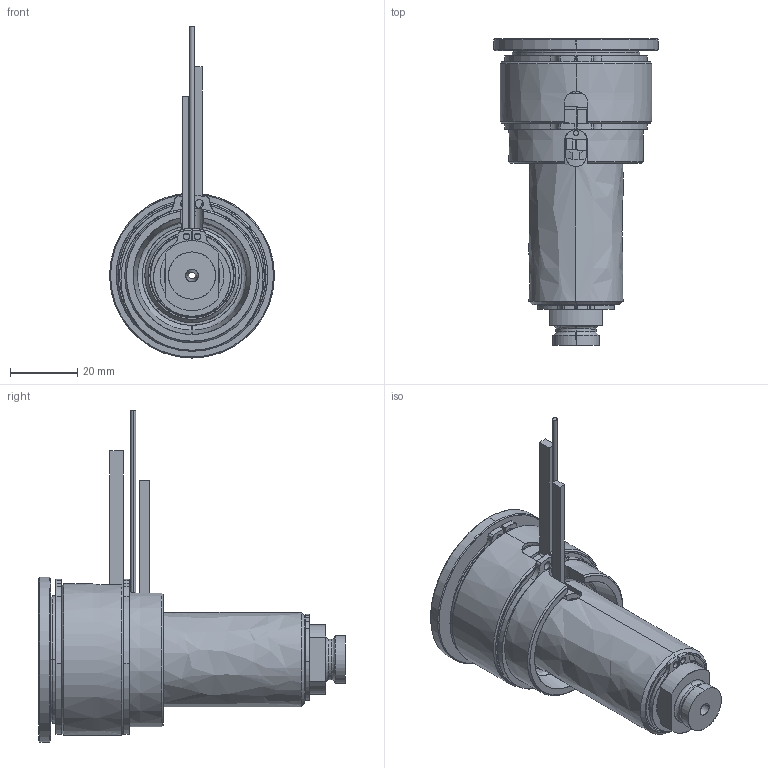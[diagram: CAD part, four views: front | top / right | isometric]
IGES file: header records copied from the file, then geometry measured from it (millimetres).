
Start section: SolidWorks IGES file using analytic representation for surfaces
Global section: file name: C:\Documents and Settings\ws-20\Desktop\TEM\UGBE4501-S-A-5 [Ød-2.0 P-0 ØC-09].IGS; native system: SolidWorks 2012; preprocessor: SolidWorks 2012; author: ws-20; date: 120412.152839; units: millimetre
Bounding box: 49 x 91 x 98.65 mm (x, y, z)
Surface area: 39627 mm2 (no closed solid volume)
Topology: 0 solids, 0 shells, 168 faces, 3165 edges, 3165 vertices
Faces by surface type: revolution 107, bspline 61
